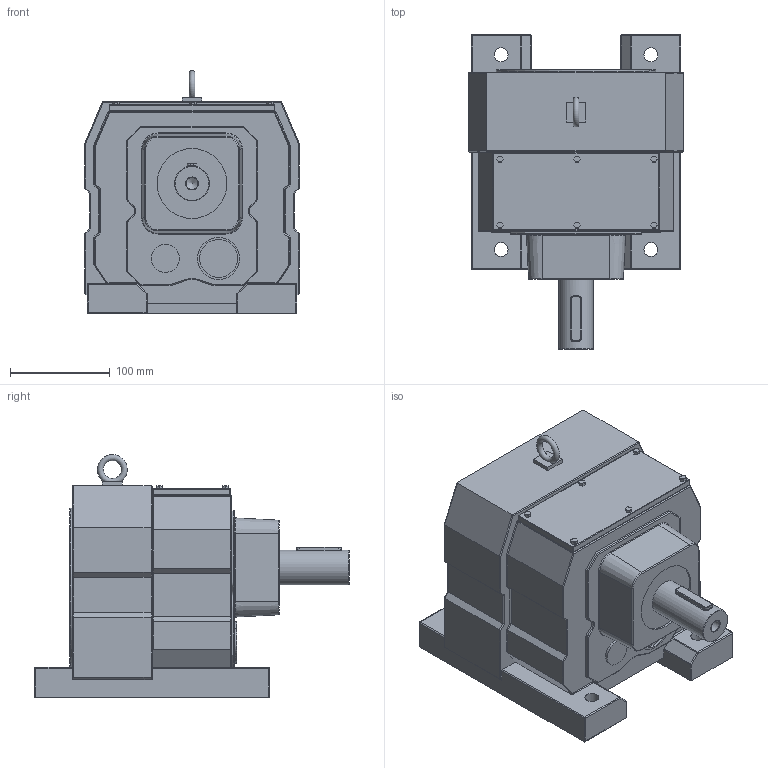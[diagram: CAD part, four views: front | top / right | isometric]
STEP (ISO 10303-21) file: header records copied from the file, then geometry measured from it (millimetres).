
FILE_DESCRIPTION((''),'2;1');
FILE_NAME('D:\PAWEŁ\ZLECENIA\2011 DualSystem\Przekładnie DR\DR60\STEP\DR60.stp','2012-06-11T12:08:38',('admin'),(''),'Autodesk Inventor 2009','Autodesk Inventor 2009','');
FILE_SCHEMA(('AUTOMOTIVE_DESIGN { 1 0 10303 214 1 1 1 1 }'));
Length unit declared in the file: millimetre
Products named in the file (1): DR60
Bounding box: 215 x 315 x 242.97 mm (x, y, z)
Volume: 7423999.5 mm3; surface area: 311956.6 mm2
Topology: 2 solids, 2 shells, 471 faces, 1106 edges, 608 vertices
Faces by surface type: cylinder 225, plane 146, sphere 56, torus 20, bspline 20, cone 4
Full cylindrical faces by diameter (mm): 14 x4, 19 x4, 28 x1, 35 x1, 38 x1, 42 x1, 70 x1, 120 x1, 160 x1
Entity records: 14310 total; most frequent: CARTESIAN_POINT 3554, DIRECTION 2353, ORIENTED_EDGE 2054, EDGE_CURVE 1027, AXIS2_PLACEMENT_3D 889, VERTEX_POINT 605, VECTOR 575, LINE 575
